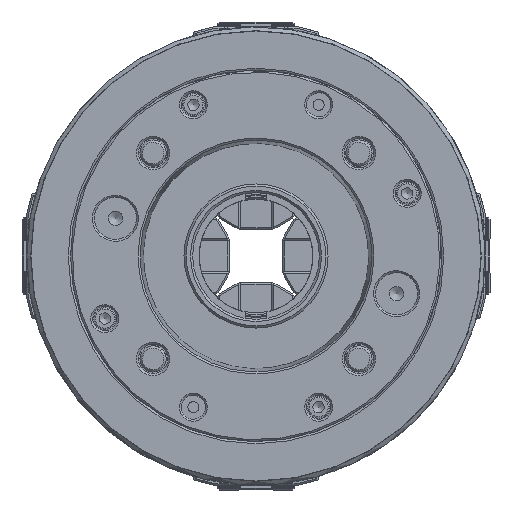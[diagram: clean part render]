
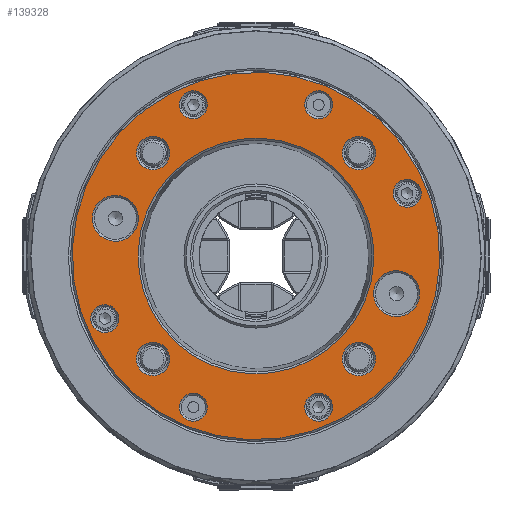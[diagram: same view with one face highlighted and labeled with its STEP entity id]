
A CAD part, front view. The second image highlights one B-rep face of the part: STEP entity #139328.
In plain terms, the highlighted planar face has unit normal (0, -1, 0).
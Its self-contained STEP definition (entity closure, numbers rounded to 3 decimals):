
#40258=PLANE('',#149324);
#40797=FACE_BOUND('',#54331,.T.);
#40798=FACE_BOUND('',#54332,.T.);
#40799=FACE_BOUND('',#54333,.T.);
#40800=FACE_BOUND('',#54334,.T.);
#40801=FACE_BOUND('',#54335,.T.);
#40802=FACE_BOUND('',#54336,.T.);
#40803=FACE_BOUND('',#54337,.T.);
#40804=FACE_BOUND('',#54338,.T.);
#40805=FACE_BOUND('',#54339,.T.);
#40806=FACE_BOUND('',#54340,.T.);
#40807=FACE_BOUND('',#54341,.T.);
#40808=FACE_BOUND('',#54342,.T.);
#40809=FACE_BOUND('',#54343,.T.);
#47305=FACE_OUTER_BOUND('',#54330,.T.);
#54330=EDGE_LOOP('',(#130948));
#54331=EDGE_LOOP('',(#130949));
#54332=EDGE_LOOP('',(#130950));
#54333=EDGE_LOOP('',(#130951));
#54334=EDGE_LOOP('',(#130952));
#54335=EDGE_LOOP('',(#130953));
#54336=EDGE_LOOP('',(#130954));
#54337=EDGE_LOOP('',(#130955));
#54338=EDGE_LOOP('',(#130956));
#54339=EDGE_LOOP('',(#130957));
#54340=EDGE_LOOP('',(#130958));
#54341=EDGE_LOOP('',(#130959));
#54342=EDGE_LOOP('',(#130960));
#54343=EDGE_LOOP('',(#130961));
#55373=CIRCLE('',#149292,84.2);
#55376=CIRCLE('',#149296,54.012);
#55377=CIRCLE('',#149298,6.4);
#55378=CIRCLE('',#149300,6.4);
#55379=CIRCLE('',#149302,6.4);
#55380=CIRCLE('',#149304,6.4);
#55381=CIRCLE('',#149306,6.4);
#55382=CIRCLE('',#149308,6.4);
#55383=CIRCLE('',#149310,7.65);
#55384=CIRCLE('',#149312,7.65);
#55385=CIRCLE('',#149314,7.65);
#55386=CIRCLE('',#149316,7.65);
#55387=CIRCLE('',#149318,10.55);
#55388=CIRCLE('',#149320,10.55);
#68757=VERTEX_POINT('',#233430);
#68760=VERTEX_POINT('',#233437);
#68761=VERTEX_POINT('',#233440);
#68762=VERTEX_POINT('',#233443);
#68763=VERTEX_POINT('',#233446);
#68764=VERTEX_POINT('',#233449);
#68765=VERTEX_POINT('',#233452);
#68766=VERTEX_POINT('',#233455);
#68767=VERTEX_POINT('',#233458);
#68768=VERTEX_POINT('',#233461);
#68769=VERTEX_POINT('',#233464);
#68770=VERTEX_POINT('',#233467);
#68771=VERTEX_POINT('',#233470);
#68772=VERTEX_POINT('',#233473);
#89513=EDGE_CURVE('',#68757,#68757,#55373,.T.);
#89516=EDGE_CURVE('',#68760,#68760,#55376,.T.);
#89517=EDGE_CURVE('',#68761,#68761,#55377,.T.);
#89518=EDGE_CURVE('',#68762,#68762,#55378,.T.);
#89519=EDGE_CURVE('',#68763,#68763,#55379,.T.);
#89520=EDGE_CURVE('',#68764,#68764,#55380,.T.);
#89521=EDGE_CURVE('',#68765,#68765,#55381,.T.);
#89522=EDGE_CURVE('',#68766,#68766,#55382,.T.);
#89523=EDGE_CURVE('',#68767,#68767,#55383,.T.);
#89524=EDGE_CURVE('',#68768,#68768,#55384,.T.);
#89525=EDGE_CURVE('',#68769,#68769,#55385,.T.);
#89526=EDGE_CURVE('',#68770,#68770,#55386,.T.);
#89527=EDGE_CURVE('',#68771,#68771,#55387,.T.);
#89528=EDGE_CURVE('',#68772,#68772,#55388,.T.);
#130948=ORIENTED_EDGE('',*,*,#89513,.T.);
#130949=ORIENTED_EDGE('',*,*,#89528,.T.);
#130950=ORIENTED_EDGE('',*,*,#89527,.T.);
#130951=ORIENTED_EDGE('',*,*,#89526,.T.);
#130952=ORIENTED_EDGE('',*,*,#89525,.T.);
#130953=ORIENTED_EDGE('',*,*,#89524,.T.);
#130954=ORIENTED_EDGE('',*,*,#89523,.T.);
#130955=ORIENTED_EDGE('',*,*,#89522,.T.);
#130956=ORIENTED_EDGE('',*,*,#89521,.T.);
#130957=ORIENTED_EDGE('',*,*,#89520,.T.);
#130958=ORIENTED_EDGE('',*,*,#89519,.T.);
#130959=ORIENTED_EDGE('',*,*,#89518,.T.);
#130960=ORIENTED_EDGE('',*,*,#89517,.T.);
#130961=ORIENTED_EDGE('',*,*,#89516,.T.);
#139328=ADVANCED_FACE('',(#47305,#40797,#40798,#40799,#40800,#40801,#40802,
#40803,#40804,#40805,#40806,#40807,#40808,#40809),#40258,.T.);
#149292=AXIS2_PLACEMENT_3D('',#233431,#184777,#184778);
#149296=AXIS2_PLACEMENT_3D('',#233438,#184785,#184786);
#149298=AXIS2_PLACEMENT_3D('',#233441,#184789,#184790);
#149300=AXIS2_PLACEMENT_3D('',#233444,#184793,#184794);
#149302=AXIS2_PLACEMENT_3D('',#233447,#184797,#184798);
#149304=AXIS2_PLACEMENT_3D('',#233450,#184801,#184802);
#149306=AXIS2_PLACEMENT_3D('',#233453,#184805,#184806);
#149308=AXIS2_PLACEMENT_3D('',#233456,#184809,#184810);
#149310=AXIS2_PLACEMENT_3D('',#233459,#184813,#184814);
#149312=AXIS2_PLACEMENT_3D('',#233462,#184817,#184818);
#149314=AXIS2_PLACEMENT_3D('',#233465,#184821,#184822);
#149316=AXIS2_PLACEMENT_3D('',#233468,#184825,#184826);
#149318=AXIS2_PLACEMENT_3D('',#233471,#184829,#184830);
#149320=AXIS2_PLACEMENT_3D('',#233474,#184833,#184834);
#149324=AXIS2_PLACEMENT_3D('',#233479,#184841,#184842);
#184777=DIRECTION('center_axis',(0.,-1.,0.));
#184778=DIRECTION('ref_axis',(0.924,0.,-0.383));
#184785=DIRECTION('center_axis',(0.,1.,0.));
#184786=DIRECTION('ref_axis',(0.924,0.,-0.383));
#184789=DIRECTION('center_axis',(0.,1.,0.));
#184790=DIRECTION('ref_axis',(0.924,0.,-0.383));
#184793=DIRECTION('center_axis',(0.,1.,0.));
#184794=DIRECTION('ref_axis',(-0.383,0.,
-0.924));
#184797=DIRECTION('center_axis',(0.,1.,0.));
#184798=DIRECTION('ref_axis',(-0.924,0.,
0.383));
#184801=DIRECTION('center_axis',(0.,1.,0.));
#184802=DIRECTION('ref_axis',(0.383,0.,0.924));
#184805=DIRECTION('center_axis',(0.,1.,0.));
#184806=DIRECTION('ref_axis',(0.924,0.,-0.383));
#184809=DIRECTION('center_axis',(0.,1.,0.));
#184810=DIRECTION('ref_axis',(-0.924,0.,
0.383));
#184813=DIRECTION('center_axis',(0.,1.,0.));
#184814=DIRECTION('ref_axis',(0.924,0.,-0.383));
#184817=DIRECTION('center_axis',(0.,1.,0.));
#184818=DIRECTION('ref_axis',(0.383,0.,0.924));
#184821=DIRECTION('center_axis',(0.,1.,0.));
#184822=DIRECTION('ref_axis',(-0.924,0.,
0.383));
#184825=DIRECTION('center_axis',(0.,1.,0.));
#184826=DIRECTION('ref_axis',(-0.383,0.,
-0.924));
#184829=DIRECTION('center_axis',(0.,1.,0.));
#184830=DIRECTION('ref_axis',(0.924,0.,-0.383));
#184833=DIRECTION('center_axis',(0.,1.,0.));
#184834=DIRECTION('ref_axis',(-0.924,0.,
0.383));
#184841=DIRECTION('center_axis',(0.,-1.,0.));
#184842=DIRECTION('ref_axis',(0.383,0.,0.924));
#233430=CARTESIAN_POINT('',(-77.791,-12.,32.222));
#233431=CARTESIAN_POINT('Origin',(0.,-12.,0.));
#233437=CARTESIAN_POINT('',(-49.9,-12.,20.669));
#233438=CARTESIAN_POINT('Origin',(0.,-12.,0.));
#233440=CARTESIAN_POINT('',(-75.204,-12.,-26.252));
#233441=CARTESIAN_POINT('Origin',(-69.291,-12.,-28.701));
#233443=CARTESIAN_POINT('',(-26.252,-12.,75.204));
#233444=CARTESIAN_POINT('Origin',(-28.701,-12.,69.291));
#233446=CARTESIAN_POINT('',(75.204,-12.,26.252));
#233447=CARTESIAN_POINT('Origin',(69.291,-12.,28.701));
#233449=CARTESIAN_POINT('',(26.252,-12.,-75.204));
#233450=CARTESIAN_POINT('Origin',(28.701,-12.,-69.291));
#233452=CARTESIAN_POINT('',(-34.614,-12.,-66.842));
#233453=CARTESIAN_POINT('Origin',(-28.701,-12.,-69.291));
#233455=CARTESIAN_POINT('',(34.614,-12.,66.842));
#233456=CARTESIAN_POINT('Origin',(28.701,-12.,69.291));
#233458=CARTESIAN_POINT('',(-54.232,-12.,-44.236));
#233459=CARTESIAN_POINT('Origin',(-47.164,-12.,-47.164));
#233461=CARTESIAN_POINT('',(44.236,-12.,-54.232));
#233462=CARTESIAN_POINT('Origin',(47.164,-12.,-47.164));
#233464=CARTESIAN_POINT('',(54.232,-12.,44.236));
#233465=CARTESIAN_POINT('Origin',(47.164,-12.,47.164));
#233467=CARTESIAN_POINT('',(-44.236,-12.,54.232));
#233468=CARTESIAN_POINT('Origin',(-47.164,-12.,47.164));
#233470=CARTESIAN_POINT('',(54.68,-12.,-13.226));
#233471=CARTESIAN_POINT('Origin',(64.427,-12.,-17.263));
#233473=CARTESIAN_POINT('',(-54.68,-12.,13.226));
#233474=CARTESIAN_POINT('Origin',(-64.427,-12.,17.263));
#233479=CARTESIAN_POINT('Origin',(-78.53,-12.,32.528));
